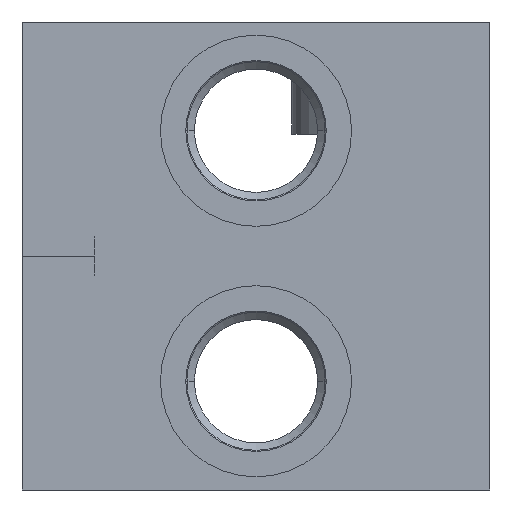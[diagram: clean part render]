
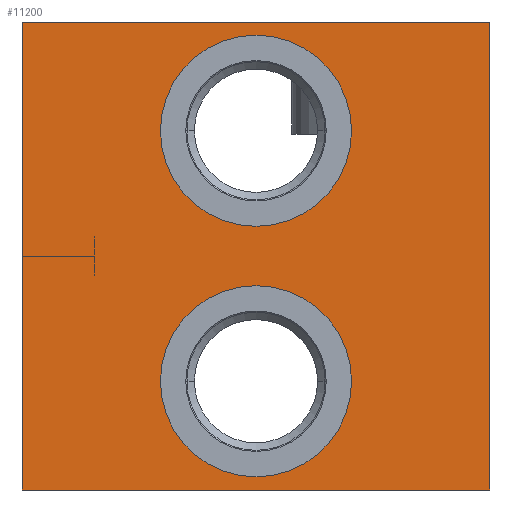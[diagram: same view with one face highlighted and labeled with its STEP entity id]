
A CAD part, left-side view. The second image highlights one B-rep face of the part: STEP entity #11200.
In plain terms, the highlighted planar face has unit normal (-1, 0, 0).
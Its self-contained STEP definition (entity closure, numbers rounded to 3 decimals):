
#30=DIRECTION('',(0.,-1.,0.));
#31=VECTOR('',#30,71.);
#32=CARTESIAN_POINT('',(0.,71.,0.));
#33=LINE('',#32,#31);
#355=DIRECTION('',(0.,0.,-1.));
#356=VECTOR('',#355,71.);
#357=CARTESIAN_POINT('',(0.,0.,0.));
#358=LINE('',#357,#356);
#2584=DIRECTION('',(0.,0.,-1.));
#2585=VECTOR('',#2584,71.);
#2586=CARTESIAN_POINT('',(0.,71.,0.));
#2587=LINE('',#2586,#2585);
#2591=CARTESIAN_POINT('',(0.,35.5,-54.5));
#2592=DIRECTION('',(1.,0.,0.));
#2593=DIRECTION('',(0.,-1.,0.));
#2594=AXIS2_PLACEMENT_3D('',#2591,#2592,#2593);
#2599=CARTESIAN_POINT('',(0.,35.5,-54.5));
#2600=DIRECTION('',(1.,0.,0.));
#2601=DIRECTION('',(0.,1.,0.));
#2602=AXIS2_PLACEMENT_3D('',#2599,#2600,#2601);
#2607=CARTESIAN_POINT('',(0.,35.5,-16.5));
#2608=DIRECTION('',(1.,0.,0.));
#2609=DIRECTION('',(0.,-1.,0.));
#2610=AXIS2_PLACEMENT_3D('',#2607,#2608,#2609);
#2615=CARTESIAN_POINT('',(0.,35.5,-16.5));
#2616=DIRECTION('',(1.,0.,0.));
#2617=DIRECTION('',(0.,1.,0.));
#2618=AXIS2_PLACEMENT_3D('',#2615,#2616,#2617);
#2644=DIRECTION('',(0.,-1.,0.));
#2645=VECTOR('',#2644,71.);
#2646=CARTESIAN_POINT('',(0.,71.,-71.));
#2647=LINE('',#2646,#2645);
#9451=CARTESIAN_POINT('',(0.,0.,0.));
#9453=VERTEX_POINT('',#9451);
#9457=CARTESIAN_POINT('',(0.,71.,0.));
#9458=VERTEX_POINT('',#9457);
#9459=CARTESIAN_POINT('',(0.,0.,-71.));
#9461=VERTEX_POINT('',#9459);
#9465=CARTESIAN_POINT('',(0.,71.,-71.));
#9466=VERTEX_POINT('',#9465);
#9495=CARTESIAN_POINT('',(0.,21.,-54.5));
#9496=CARTESIAN_POINT('',(0.,50.,-54.5));
#9497=VERTEX_POINT('',#9495);
#9498=VERTEX_POINT('',#9496);
#9511=CARTESIAN_POINT('',(0.,21.,-16.5));
#9512=CARTESIAN_POINT('',(0.,50.,-16.5));
#9513=VERTEX_POINT('',#9511);
#9514=VERTEX_POINT('',#9512);
#11176=CARTESIAN_POINT('',(0.,71.,0.));
#11177=DIRECTION('',(-1.,0.,0.));
#11178=DIRECTION('',(0.,-1.,0.));
#11179=AXIS2_PLACEMENT_3D('',#11176,#11177,#11178);
#11180=PLANE('',#11179);
#11181=ORIENTED_EDGE('',*,*,#10532,.T.);
#11182=ORIENTED_EDGE('',*,*,#10672,.T.);
#11184=ORIENTED_EDGE('',*,*,#11183,.F.);
#11185=ORIENTED_EDGE('',*,*,#10759,.F.);
#11186=EDGE_LOOP('',(#11181,#11182,#11184,#11185));
#11187=FACE_OUTER_BOUND('',#11186,.F.);
#11189=ORIENTED_EDGE('',*,*,#11188,.F.);
#11191=ORIENTED_EDGE('',*,*,#11190,.F.);
#11192=EDGE_LOOP('',(#11189,#11191));
#11193=FACE_BOUND('',#11192,.F.);
#11195=ORIENTED_EDGE('',*,*,#11194,.F.);
#11197=ORIENTED_EDGE('',*,*,#11196,.F.);
#11198=EDGE_LOOP('',(#11195,#11197));
#11199=FACE_BOUND('',#11198,.F.);
#2595=CIRCLE('',#2594,14.5);
#2603=CIRCLE('',#2602,14.5);
#2611=CIRCLE('',#2610,14.5);
#2619=CIRCLE('',#2618,14.5);
#10532=EDGE_CURVE('',#9458,#9453,#33,.T.);
#10672=EDGE_CURVE('',#9453,#9461,#358,.T.);
#10759=EDGE_CURVE('',#9458,#9466,#2587,.T.);
#11183=EDGE_CURVE('',#9466,#9461,#2647,.T.);
#11188=EDGE_CURVE('',#9497,#9498,#2595,.T.);
#11190=EDGE_CURVE('',#9498,#9497,#2603,.T.);
#11194=EDGE_CURVE('',#9513,#9514,#2611,.T.);
#11196=EDGE_CURVE('',#9514,#9513,#2619,.T.);
#11200=ADVANCED_FACE('',(#11187,#11193,#11199),#11180,.T.);
